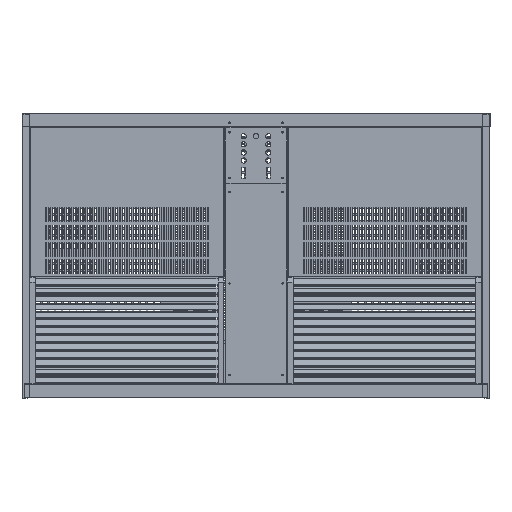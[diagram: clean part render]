
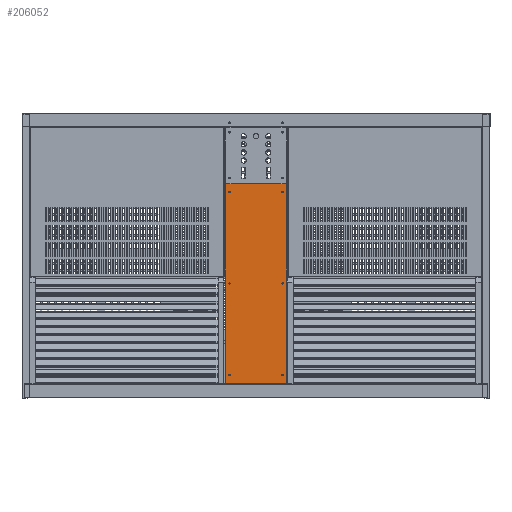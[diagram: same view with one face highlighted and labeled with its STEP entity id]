
A CAD part, top view. The second image highlights one B-rep face of the part: STEP entity #206052.
In plain terms, the highlighted planar face has unit normal (0, 0, 1) as drawn and (0, 1, 0) by its records, which use the part's own axes.
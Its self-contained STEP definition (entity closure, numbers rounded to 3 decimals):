
#27121=LINE('',#324148,#53381);
#27129=LINE('',#324180,#53389);
#27133=LINE('',#324188,#53393);
#27134=LINE('',#324202,#53394);
#27135=LINE('',#324204,#53395);
#27136=LINE('',#324207,#53396);
#53381=VECTOR('',#267119,1000.);
#53389=VECTOR('',#267147,1000.);
#53393=VECTOR('',#267153,1000.);
#53394=VECTOR('',#267168,1000.);
#53395=VECTOR('',#267169,1000.);
#53396=VECTOR('',#267172,1000.);
#109350=ORIENTED_EDGE('',*,*,#138020,.F.);
#109351=ORIENTED_EDGE('',*,*,#138021,.F.);
#109352=ORIENTED_EDGE('',*,*,#138022,.F.);
#109353=ORIENTED_EDGE('',*,*,#138023,.F.);
#109354=ORIENTED_EDGE('',*,*,#138024,.F.);
#109355=ORIENTED_EDGE('',*,*,#138025,.F.);
#109356=ORIENTED_EDGE('',*,*,#138026,.F.);
#109357=ORIENTED_EDGE('',*,*,#138027,.T.);
#109358=ORIENTED_EDGE('',*,*,#138028,.T.);
#109359=ORIENTED_EDGE('',*,*,#138015,.T.);
#109360=ORIENTED_EDGE('',*,*,#138029,.F.);
#109361=ORIENTED_EDGE('',*,*,#138019,.T.);
#109362=ORIENTED_EDGE('',*,*,#138030,.T.);
#109363=ORIENTED_EDGE('',*,*,#137999,.T.);
#137999=EDGE_CURVE('',#157044,#157043,#27121,.T.);
#138015=EDGE_CURVE('',#157058,#157057,#27129,.T.);
#138019=EDGE_CURVE('',#157059,#157060,#27133,.T.);
#138020=EDGE_CURVE('',#157061,#157061,#159145,.T.);
#138021=EDGE_CURVE('',#157062,#157062,#159146,.T.);
#138022=EDGE_CURVE('',#157063,#157063,#159147,.T.);
#138023=EDGE_CURVE('',#157064,#157064,#159148,.T.);
#138024=EDGE_CURVE('',#157065,#157065,#159149,.T.);
#138025=EDGE_CURVE('',#157066,#157066,#159150,.T.);
#138026=EDGE_CURVE('',#157067,#157043,#27134,.T.);
#138027=EDGE_CURVE('',#157067,#157068,#27135,.T.);
#138028=EDGE_CURVE('',#157068,#157058,#159151,.T.);
#138029=EDGE_CURVE('',#157059,#157057,#27136,.T.);
#138030=EDGE_CURVE('',#157060,#157044,#159152,.T.);
#157043=VERTEX_POINT('',#324147);
#157044=VERTEX_POINT('',#324149);
#157057=VERTEX_POINT('',#324179);
#157058=VERTEX_POINT('',#324181);
#157059=VERTEX_POINT('',#324185);
#157060=VERTEX_POINT('',#324187);
#157061=VERTEX_POINT('',#324191);
#157062=VERTEX_POINT('',#324193);
#157063=VERTEX_POINT('',#324195);
#157064=VERTEX_POINT('',#324197);
#157065=VERTEX_POINT('',#324199);
#157066=VERTEX_POINT('',#324201);
#157067=VERTEX_POINT('',#324203);
#157068=VERTEX_POINT('',#324205);
#159145=CIRCLE('',#218497,2.);
#159146=CIRCLE('',#218498,2.);
#159147=CIRCLE('',#218499,2.);
#159148=CIRCLE('',#218500,2.);
#159149=CIRCLE('',#218501,2.);
#159150=CIRCLE('',#218502,2.);
#159151=CIRCLE('',#218503,5.);
#159152=CIRCLE('',#218504,5.);
#173462=EDGE_LOOP('',(#109350));
#173463=EDGE_LOOP('',(#109351));
#173464=EDGE_LOOP('',(#109352));
#173465=EDGE_LOOP('',(#109353));
#173466=EDGE_LOOP('',(#109354));
#173467=EDGE_LOOP('',(#109355));
#173468=EDGE_LOOP('',(#109356,#109357,#109358,#109359,#109360,#109361,#109362,
#109363));
#187919=FACE_BOUND('',#173462,.T.);
#187920=FACE_BOUND('',#173463,.T.);
#187921=FACE_BOUND('',#173464,.T.);
#187922=FACE_BOUND('',#173465,.T.);
#187923=FACE_BOUND('',#173466,.T.);
#187924=FACE_BOUND('',#173467,.T.);
#187925=FACE_BOUND('',#173468,.T.);
#196590=PLANE('',#218496);
#206052=ADVANCED_FACE('',(#187919,#187920,#187921,#187922,#187923,#187924,
#187925),#196590,.T.);
#218496=AXIS2_PLACEMENT_3D('',#324189,#267154,#267155);
#218497=AXIS2_PLACEMENT_3D('',#324190,#267156,#267157);
#218498=AXIS2_PLACEMENT_3D('',#324192,#267158,#267159);
#218499=AXIS2_PLACEMENT_3D('',#324194,#267160,#267161);
#218500=AXIS2_PLACEMENT_3D('',#324196,#267162,#267163);
#218501=AXIS2_PLACEMENT_3D('',#324198,#267164,#267165);
#218502=AXIS2_PLACEMENT_3D('',#324200,#267166,#267167);
#218503=AXIS2_PLACEMENT_3D('',#324206,#267170,#267171);
#218504=AXIS2_PLACEMENT_3D('',#324208,#267173,#267174);
#267119=DIRECTION('',(0.,0.,-1.));
#267147=DIRECTION('',(1.,0.,0.));
#267153=DIRECTION('',(1.,0.,0.));
#267154=DIRECTION('',(0.,1.,0.));
#267155=DIRECTION('',(0.,0.,1.));
#267156=DIRECTION('',(0.,1.,0.));
#267157=DIRECTION('',(0.,0.,1.));
#267158=DIRECTION('',(0.,1.,0.));
#267159=DIRECTION('',(0.,0.,1.));
#267160=DIRECTION('',(0.,1.,0.));
#267161=DIRECTION('',(0.,0.,1.));
#267162=DIRECTION('',(0.,1.,0.));
#267163=DIRECTION('',(0.,0.,1.));
#267164=DIRECTION('',(0.,1.,0.));
#267165=DIRECTION('',(0.,0.,1.));
#267166=DIRECTION('',(0.,1.,0.));
#267167=DIRECTION('',(0.,0.,1.));
#267168=DIRECTION('',(1.,0.,0.));
#267169=DIRECTION('',(0.,0.,1.));
#267170=DIRECTION('',(0.,1.,0.));
#267171=DIRECTION('',(1.,0.,0.));
#267172=DIRECTION('',(-1.,0.,0.));
#267173=DIRECTION('',(0.,1.,0.));
#267174=DIRECTION('',(-1.,0.,0.));
#324147=CARTESIAN_POINT('',(88.,0.7,-283.45));
#324148=CARTESIAN_POINT('',(88.,0.7,278.45));
#324149=CARTESIAN_POINT('',(88.,0.7,278.45));
#324179=CARTESIAN_POINT('',(-68.,0.7,283.45));
#324180=CARTESIAN_POINT('',(-83.,0.7,283.45));
#324181=CARTESIAN_POINT('',(-83.,0.7,283.45));
#324185=CARTESIAN_POINT('',(68.,0.7,283.45));
#324187=CARTESIAN_POINT('',(83.,0.7,283.45));
#324188=CARTESIAN_POINT('',(-83.,0.7,283.45));
#324189=CARTESIAN_POINT('',(83.,0.7,278.45));
#324190=CARTESIAN_POINT('',(-75.4,0.7,-259.3));
#324191=CARTESIAN_POINT('',(-75.4,0.7,-257.3));
#324192=CARTESIAN_POINT('',(75.4,0.7,-259.3));
#324193=CARTESIAN_POINT('',(75.4,0.7,-257.3));
#324194=CARTESIAN_POINT('',(-75.4,0.7,0.7));
#324195=CARTESIAN_POINT('',(-75.4,0.7,2.7));
#324196=CARTESIAN_POINT('',(75.4,0.7,0.7));
#324197=CARTESIAN_POINT('',(75.4,0.7,2.7));
#324198=CARTESIAN_POINT('',(-75.4,0.7,260.7));
#324199=CARTESIAN_POINT('',(-75.4,0.7,262.7));
#324200=CARTESIAN_POINT('',(75.4,0.7,260.7));
#324201=CARTESIAN_POINT('',(75.4,0.7,262.7));
#324202=CARTESIAN_POINT('',(-88.,0.7,-283.45));
#324203=CARTESIAN_POINT('',(-88.,0.7,-283.45));
#324204=CARTESIAN_POINT('',(-88.,0.7,278.45));
#324205=CARTESIAN_POINT('',(-88.,0.7,278.45));
#324206=CARTESIAN_POINT('',(-83.,0.7,278.45));
#324207=CARTESIAN_POINT('',(68.,0.7,283.45));
#324208=CARTESIAN_POINT('',(83.,0.7,278.45));
